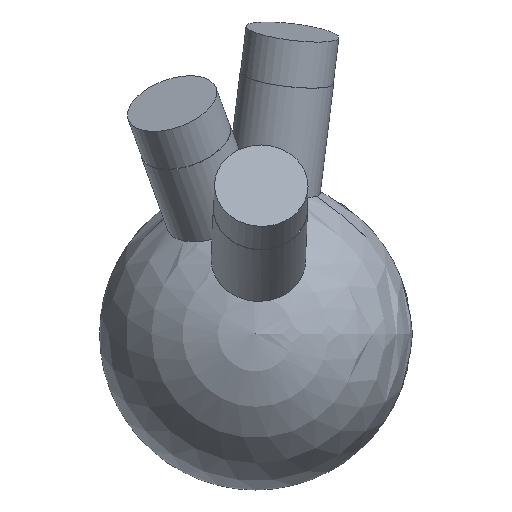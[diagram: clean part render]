
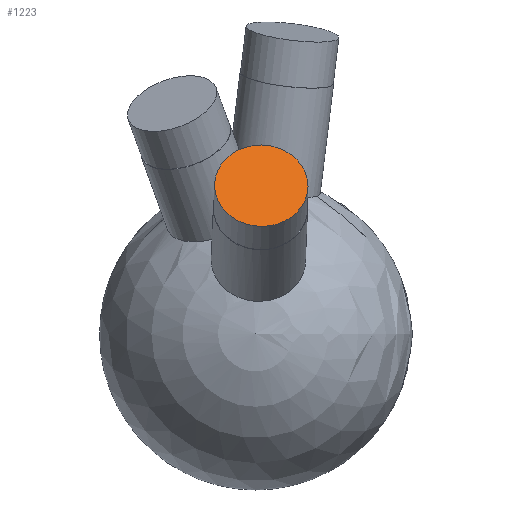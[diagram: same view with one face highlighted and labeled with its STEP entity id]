
A CAD part, top view. The second image highlights one B-rep face of the part: STEP entity #1223.
In plain terms, the highlighted planar face has unit normal (0.019, 0.491, 0.871).
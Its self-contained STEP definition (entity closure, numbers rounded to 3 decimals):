
#1008 = CYLINDRICAL_SURFACE('',#1009,5.95);
#1009 = AXIS2_PLACEMENT_3D('',#1010,#1011,#1012);
#1010 = CARTESIAN_POINT('',(0.619,15.888,
    28.206));
#1011 = DIRECTION('',(0.019,0.491,0.871)
  );
#1012 = DIRECTION('',(0.,0.871,-0.491)
  );
#1113 = EDGE_CURVE('',#1114,#1114,#1116,.T.);
#1114 = VERTEX_POINT('',#1115);
#1115 = CARTESIAN_POINT('',(0.734,24.016,
    30.512));
#1116 = SURFACE_CURVE('',#1117,(#1122,#1129),.PCURVE_S1.);
#1117 = CIRCLE('',#1118,5.95);
#1118 = AXIS2_PLACEMENT_3D('',#1119,#1120,#1121);
#1119 = CARTESIAN_POINT('',(0.734,18.832,
    33.432));
#1120 = DIRECTION('',(0.019,0.491,0.871)
  );
#1121 = DIRECTION('',(0.,0.871,-0.491)
  );
#1122 = PCURVE('',#1008,#1123);
#1123 = DEFINITIONAL_REPRESENTATION('',(#1124),#1128);
#1124 = LINE('',#1125,#1126);
#1125 = CARTESIAN_POINT('',(0.,6.));
#1126 = VECTOR('',#1127,1.);
#1127 = DIRECTION('',(1.,0.));
#1128 = ( GEOMETRIC_REPRESENTATION_CONTEXT(2) 
PARAMETRIC_REPRESENTATION_CONTEXT() REPRESENTATION_CONTEXT('2D SPACE',''
  ) );
#1129 = PCURVE('',#1130,#1135);
#1130 = PLANE('',#1131);
#1131 = AXIS2_PLACEMENT_3D('',#1132,#1133,#1134);
#1132 = CARTESIAN_POINT('',(0.734,18.832,
    33.432));
#1133 = DIRECTION('',(0.019,0.491,0.871)
  );
#1134 = DIRECTION('',(0.,0.871,-0.491)
  );
#1135 = DEFINITIONAL_REPRESENTATION('',(#1136),#1140);
#1136 = CIRCLE('',#1137,5.95);
#1137 = AXIS2_PLACEMENT_2D('',#1138,#1139);
#1138 = CARTESIAN_POINT('',(0.,0.));
#1139 = DIRECTION('',(1.,0.));
#1140 = ( GEOMETRIC_REPRESENTATION_CONTEXT(2) 
PARAMETRIC_REPRESENTATION_CONTEXT() REPRESENTATION_CONTEXT('2D SPACE',''
  ) );
#1223 = ADVANCED_FACE('',(#1224),#1130,.T.);
#1224 = FACE_BOUND('',#1225,.T.);
#1225 = EDGE_LOOP('',(#1226));
#1226 = ORIENTED_EDGE('',*,*,#1113,.T.);
